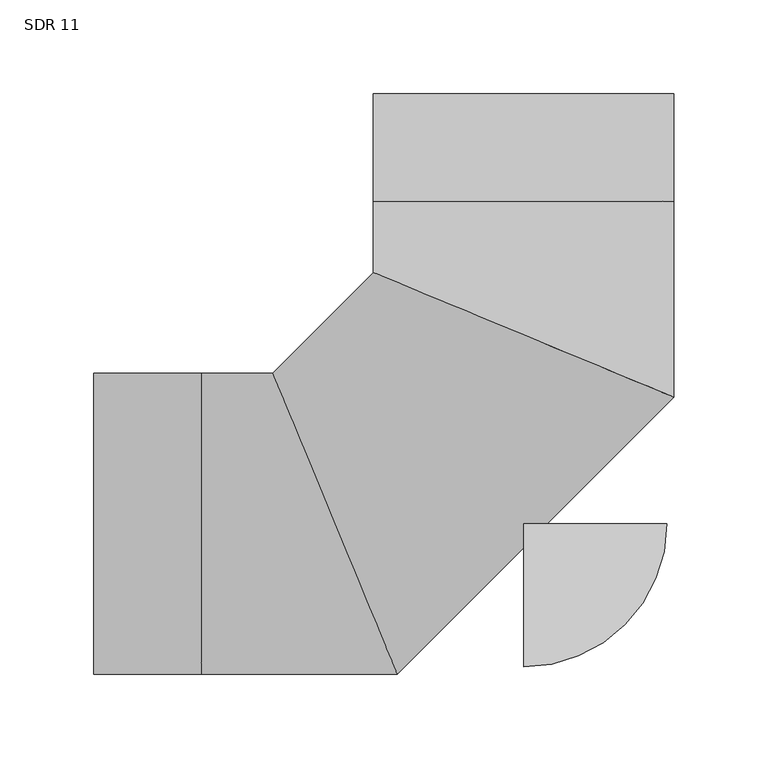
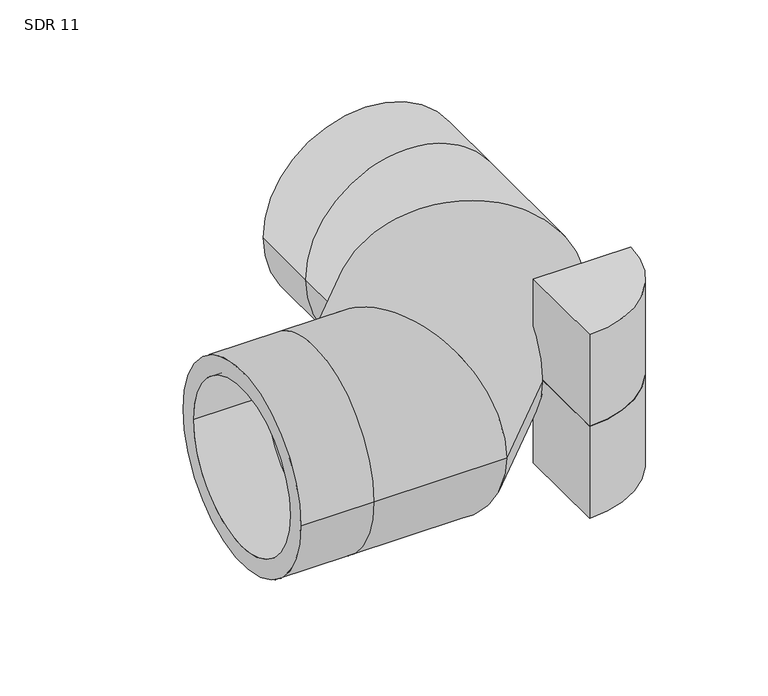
"""IFC4 building model written with IfcOpenShell, lengths in millimetres: pipe fitting geometry, Aquatherm - Elbow Blue BW Segmented : SDR 11."""

from ifc_helpers import new_model, si_unit, point, frame, origin, origin_with_axes, origin_2d, place, context, project, spatial, polyline, circle_curve, ellipse_curve, trimmed, segment, composite_curve, outline, extrude, source, transform, mapped, element, save
from ifc_brep_helpers import plane_surface, cylinder_surface, revolved_surface, advanced_brep


def sdr_11_a3f28f0f(model_context):
    return source(origin(), model_context, "Body", "SolidModel", [
        extrude(outline(composite_curve([segment(polyline([(0.0, -76.2), (0.0, 0.0), (76.2, 0.0)]), True, "CONTINUOUS"), segment(trimmed(circle_curve(origin_2d(), 76.2), [point((76.2, 0.0))], [point((0.0, -76.2))], False, "CARTESIAN"), True, "CONTINUOUS")], self_intersect=False)), frame((0.0, 0.0, -76.2), z_axis=(0.0, 0.0, 1.0), x_axis=(1.0, 0.0, 0.0)), (0.0, 0.0, 1.0), 76.2),
        extrude(outline(composite_curve([segment(trimmed(circle_curve(origin_2d(), 76.2), [point((76.2, 0.0))], [point((0.0, -76.2))], False, "CARTESIAN"), True, "CONTINUOUS"), segment(polyline([(0.0, -76.2), (0.0, 0.0), (76.2, 0.0)]), True, "CONTINUOUS")], self_intersect=False)), origin_with_axes(), (0.0, 0.0, 1.0), 76.2),
        advanced_brep(
        [(-228.6, -80.01, 0.0), (-228.6, 80.01, 0.0), (-228.6, -65.4627273, 0.0), (-228.6, 65.4627273, 0.0), (80.01, 228.6, 0.0), (-80.01, 228.6, 0.0), (65.4627273, 228.6, 0.0), (-65.4627273, 228.6, 0.0), (-171.45, -80.01, 0.0), (-171.45, 80.01, 0.0), (-171.45, -65.4627273, 0.0), (-171.45, 65.4627273, 0.0), (-67.2918576, -80.01, 0.0), (-133.5743119, 80.01, 0.0), (-73.3175353, -65.4627273, 0.0), (-127.5486342, 65.4627273, 0.0), (80.01, 67.2918576, 0.0), (-80.01, 133.5743119, 0.0), (65.4627273, 73.3175353, 0.0), (-65.4627273, 127.5486342, 0.0), (-80.01, 171.45, 0.0), (80.01, 171.45, 0.0), (-65.4627273, 171.45, 0.0), (65.4627273, 171.45, 0.0)],
        [
            (0, 1, circle_curve(frame((-228.6, 0.0, 0.0), z_axis=(-1.0, 0.0, 0.0), x_axis=(0.0, 1.0, 0.0)), 80.01)),
            (1, 0, circle_curve(frame((-228.6, 0.0, 0.0), z_axis=(-1.0, 0.0, 0.0), x_axis=(0.0, 1.0, 0.0)), 80.01)),
            (2, 3, circle_curve(frame((-228.6, 0.0, 0.0), z_axis=(1.0, 0.0, 0.0), x_axis=(0.0, 1.0, 0.0)), 65.4627273)),
            (3, 2, circle_curve(frame((-228.6, 0.0, 0.0), z_axis=(1.0, 0.0, 0.0), x_axis=(0.0, 1.0, 0.0)), 65.4627273)),
            (4, 5, circle_curve(frame((0.0, 228.6, 0.0), z_axis=(0.0, 1.0, 0.0), x_axis=(-1.0, 0.0, 0.0)), 80.01)),
            (5, 4, circle_curve(frame((0.0, 228.6, 0.0), z_axis=(0.0, 1.0, 0.0), x_axis=(-1.0, 0.0, 0.0)), 80.01)),
            (6, 7, circle_curve(frame((0.0, 228.6, 0.0), z_axis=(0.0, -1.0, 0.0), x_axis=(-1.0, 0.0, 0.0)), 65.4627273)),
            (7, 6, circle_curve(frame((0.0, 228.6, 0.0), z_axis=(0.0, -1.0, 0.0), x_axis=(-1.0, 0.0, 0.0)), 65.4627273)),
            (0, 8),
            (8, 9, circle_curve(frame((-171.45, 0.0, 0.0), z_axis=(-1.0, 0.0, 0.0), x_axis=(0.0, 1.0, 0.0)), 80.01)),
            (9, 1),
            (9, 8, circle_curve(frame((-171.45, 0.0, 0.0), z_axis=(-1.0, 0.0, 0.0), x_axis=(0.0, 1.0, 0.0)), 80.01)),
            (2, 10),
            (10, 11, circle_curve(frame((-171.45, 0.0, 0.0), z_axis=(1.0, 0.0, 0.0), x_axis=(0.0, 1.0, 0.0)), 65.4627273)),
            (11, 3),
            (11, 10, circle_curve(frame((-171.45, 0.0, 0.0), z_axis=(1.0, 0.0, 0.0), x_axis=(0.0, 1.0, 0.0)), 65.4627273)),
            (8, 12),
            (12, 13, ellipse_curve(frame((-100.4330847, 0.0, 0.0), z_axis=(-0.9238795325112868, -0.38268343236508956, 0.0), x_axis=(-0.3826834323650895, 0.9238795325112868, 0.0)), 86.6021999, 80.01)),
            (13, 9),
            (13, 12, ellipse_curve(frame((-100.4330847, 0.0, 0.0), z_axis=(-0.9238795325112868, -0.38268343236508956, 0.0), x_axis=(-0.3826834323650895, 0.9238795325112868, 0.0)), 86.6021999, 80.01)),
            (10, 14),
            (14, 15, ellipse_curve(frame((-100.4330847, 0.0, 0.0), z_axis=(0.9238795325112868, 0.38268343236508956, 0.0), x_axis=(0.3826834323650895, -0.9238795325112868, 0.0)), 70.8563454, 65.4627273)),
            (15, 11),
            (15, 14, ellipse_curve(frame((-100.4330847, 0.0, 0.0), z_axis=(0.9238795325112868, 0.38268343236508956, 0.0), x_axis=(0.3826834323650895, -0.9238795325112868, 0.0)), 70.8563454, 65.4627273)),
            (12, 16),
            (16, 17, ellipse_curve(frame((0.0, 100.4330847, 0.0), z_axis=(-0.38268343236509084, -0.9238795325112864, 0.0), x_axis=(-0.9238795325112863, 0.3826834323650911, 0.0)), 86.6021999, 80.01)),
            (17, 13),
            (17, 16, ellipse_curve(frame((0.0, 100.4330847, 0.0), z_axis=(-0.38268343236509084, -0.9238795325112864, 0.0), x_axis=(-0.9238795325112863, 0.3826834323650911, 0.0)), 86.6021999, 80.01)),
            (14, 18),
            (18, 19, ellipse_curve(frame((0.0, 100.4330847, 0.0), z_axis=(0.38268343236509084, 0.9238795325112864, 0.0), x_axis=(0.9238795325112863, -0.3826834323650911, 0.0)), 70.8563454, 65.4627273)),
            (19, 15),
            (19, 18, ellipse_curve(frame((0.0, 100.4330847, 0.0), z_axis=(0.38268343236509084, 0.9238795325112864, 0.0), x_axis=(0.9238795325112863, -0.3826834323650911, 0.0)), 70.8563454, 65.4627273)),
            (20, 21, circle_curve(frame((0.0, 171.45, 0.0), z_axis=(0.0, 1.0, 0.0), x_axis=(-1.0, 0.0, 0.0)), 80.01)),
            (21, 4),
            (5, 20),
            (21, 20, circle_curve(frame((0.0, 171.45, 0.0), z_axis=(0.0, 1.0, 0.0), x_axis=(-1.0, 0.0, 0.0)), 80.01)),
            (22, 23, circle_curve(frame((0.0, 171.45, 0.0), z_axis=(0.0, -1.0, 0.0), x_axis=(-1.0, 0.0, 0.0)), 65.4627273)),
            (23, 6),
            (7, 22),
            (23, 22, circle_curve(frame((0.0, 171.45, 0.0), z_axis=(0.0, -1.0, 0.0), x_axis=(-1.0, 0.0, 0.0)), 65.4627273)),
            (16, 21),
            (20, 17),
            (18, 23),
            (22, 19),
        ],
        [
            plane_surface(frame((-228.6, 0.0, 0.0), z_axis=(-1.0, 0.0, 0.0), x_axis=(0.0, 0.0, 1.0))),
            plane_surface(frame((0.0, 228.6, 0.0), z_axis=(0.0, 1.0, 0.0), x_axis=(0.0, 0.0, 1.0))),
            cylinder_surface(frame((-228.6, 0.0, 0.0), z_axis=(-1.0, 0.0, 0.0), x_axis=(0.0, 1.0, 0.0)), 80.01),
            revolved_surface(polyline([(-171.45, 65.4627273, 0.0), (-228.6, 65.4627273, 0.0)]), (-228.6, 0.0, 0.0), (1.0, 0.0, 0.0)),
            cylinder_surface(frame((-171.45, 0.0, 0.0), z_axis=(-1.0, 0.0, 0.0), x_axis=(0.0, 1.0, 0.0)), 80.01),
            revolved_surface(polyline([(-73.31753523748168, 65.4627273, 0.0), (-171.45, 65.4627273, 0.0)]), (-171.45, 0.0, 0.0), (1.0, 0.0, 0.0)),
            cylinder_surface(frame((-100.4330847, 0.0, 0.0), z_axis=(-0.7071067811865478, -0.7071067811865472, 0.0), x_axis=(-0.7071067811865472, 0.7071067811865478, 0.0)), 80.01),
            revolved_surface(polyline([(-27.115549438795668, 165.8958120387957, 0.0), (-165.89581203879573, 27.11554943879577, 0.0)]), (-100.4330847, 0.0, 0.0), (0.7071067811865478, 0.7071067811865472, 0.0)),
            cylinder_surface(frame((0.0, 171.45, 0.0), z_axis=(0.0, -1.0, 0.0), x_axis=(-1.0, 0.0, 0.0)), 80.01),
            revolved_surface(polyline([(-65.4627273, 228.6, 0.0), (-65.4627273, 171.45, 0.0)]), (0.0, 171.45, 0.0), (0.0, 1.0, 0.0)),
            cylinder_surface(frame((0.0, 100.4330847, 0.0), z_axis=(0.0, -1.0, 0.0), x_axis=(-1.0, 0.0, 0.0)), 80.01),
            revolved_surface(polyline([(-65.4627273, 171.45, 0.0), (-65.4627273, 73.31753523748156, 0.0)]), (0.0, 100.4330847, 0.0), (0.0, 1.0, 0.0)),
        ],
        [
            (0, [[1, 2], [3, 4]]),
            (1, [[5, 6], [7, 8]]),
            (2, [[-1, 9, 10, 11]]),
            (2, [[-2, -11, 12, -9]]),
            (3, [[-3, 13, 14, 15]]),
            (3, [[-4, -15, 16, -13]]),
            (4, [[-10, 17, 18, 19]]),
            (4, [[-12, -19, 20, -17]]),
            (5, [[-14, 21, 22, 23]]),
            (5, [[-16, -23, 24, -21]]),
            (6, [[-18, 25, 26, 27]]),
            (6, [[-20, -27, 28, -25]]),
            (7, [[-22, 29, 30, 31]]),
            (7, [[-24, -31, 32, -29]]),
            (8, [[33, 34, -6, 35]]),
            (8, [[36, -35, -5, -34]]),
            (9, [[37, 38, -8, 39]]),
            (9, [[40, -39, -7, -38]]),
            (10, [[-26, 41, -33, 42]]),
            (10, [[-28, -42, -36, -41]]),
            (11, [[-30, 43, -37, 44]]),
            (11, [[-32, -44, -40, -43]]),
        ],
    ),
    ])


if __name__ == "__main__":
    model = new_model("IFC4")
    model_context = context("Model", 3, world=origin())
    ifc_project = project(units=[si_unit("LENGTHUNIT", "METRE", prefix="MILLI")], contexts=[model_context])
    site = spatial("IfcSite", under=ifc_project)
    building = spatial("IfcBuilding", under=site)
    placement = place(None, origin())
    sdr_11_shape = sdr_11_a3f28f0f(model_context)
    element("IfcPipeFitting", 1, ObjectType="Aquatherm - Elbow Blue BW Segmented : SDR 11", at=placement, inside=building, context=model_context, shape_type="MappedRepresentation", body=[
        mapped(sdr_11_shape, transform((0.0, 0.0, 0.0), x_axis=(1.0, 0.0, 0.0), y_axis=(0.0, 1.0, 0.0), z_axis=(0.0, 0.0, 1.0))),
    ])
    save(model, "model.ifc")
